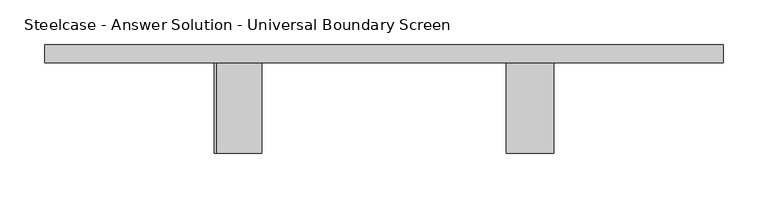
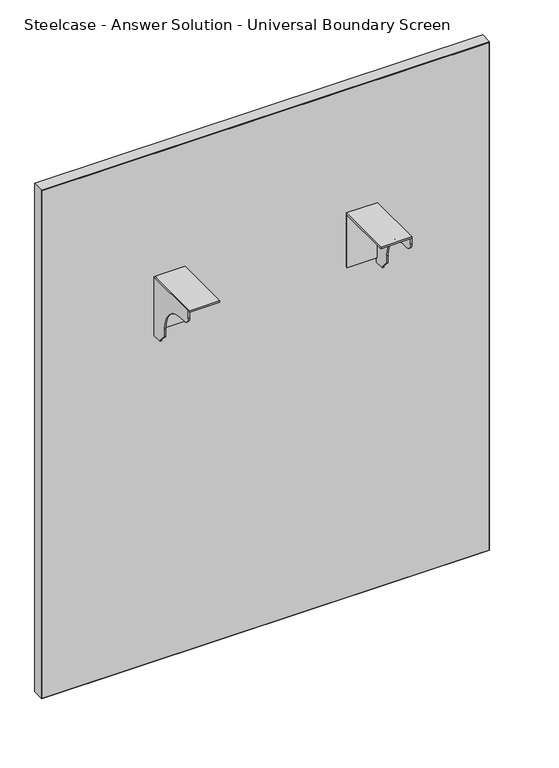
"""IFC4 building model written with IfcOpenShell, lengths in millimetres: furniture geometry, Steelcase - Answer Solution - Universal Boundary Screen : 36H x 30W."""

import ifcopenshell
import ifcopenshell.guid

model = None  # the IFC model being written
_history = None  # IfcOwnerHistory: only IFC2X3 demands one
_inside = {}  # id of a spatial element -> (the spatial element, [elements in it])
_under = {}  # id of a project, library or spatial element -> (it, [spatial elements below it])
_declared = {}  # id of a project -> (the project, [libraries it declares])
_typed = {}  # id of a type object -> (the type object, [elements of that type])
_made_of = {}  # id of a material, layer set ... -> (it, [elements and type objects made of it])


def new_model(schema):
    """Start an empty IFC model of exactly this schema.

    Asked for "IFC4X3", IfcOpenShell would pick the latest addendum, in which some entities
    have other attributes; the version numbers below select the first issue.
    IFC2X3 requires an IfcOwnerHistory on every rooted entity: one is made here for all.
    """
    global model, _history
    if schema == "IFC4X3":
        model = ifcopenshell.file(schema_version=(4, 3, 0, 0))
    else:
        model = ifcopenshell.file(schema=schema)
    _inside.clear()
    _under.clear()
    _declared.clear()
    _typed.clear()
    _made_of.clear()
    _history = None
    if model.schema == "IFC2X3":
        org = make("IfcOrganization", Name="unknown")
        user = make(
            "IfcPersonAndOrganization",
            ThePerson=make("IfcPerson", FamilyName="unknown"),
            TheOrganization=org,
        )
        app = make(
            "IfcApplication",
            ApplicationDeveloper=org,
            Version="unknown",
            ApplicationFullName="unknown",
            ApplicationIdentifier="unknown",
        )
        _history = make(
            "IfcOwnerHistory",
            OwningUser=user,
            OwningApplication=app,
            ChangeAction="ADDED",
            CreationDate=0,
        )
    return model


def make(cls, **values):
    """One entity of the class cls with the attributes given. An attribute that is None is left unset."""
    return model.create_entity(
        cls, **{name: value for name, value in values.items() if value is not None}
    )


def rooted(cls, **values):
    """An entity with a GlobalId (a new one), such as an element, a storey or a relation."""
    return make(cls, GlobalId=ifcopenshell.guid.new(), OwnerHistory=_history, **values)


def si_unit(unit_type, name, prefix=None):
    """IfcSIUnit, for example si_unit("LENGTHUNIT", "METRE", prefix="MILLI")."""
    return make("IfcSIUnit", UnitType=unit_type, Prefix=prefix, Name=name)


def assignment(units):
    """IfcUnitAssignment: the units of a project."""
    return None if units is None else make("IfcUnitAssignment", Units=units)


def point(xyz):
    """IfcCartesianPoint."""
    return None if xyz is None else make("IfcCartesianPoint", Coordinates=xyz)


def direction(xyz):
    """IfcDirection."""
    return None if xyz is None else make("IfcDirection", DirectionRatios=xyz)


def frame(location, z_axis=None, x_axis=None):
    """IfcAxis2Placement3D, a coordinate frame: its origin and axes. An axis left out is left unset."""
    return make(
        "IfcAxis2Placement3D",
        Location=point(location),
        Axis=direction(z_axis),
        RefDirection=direction(x_axis),
    )


def frame_2d(location, x_axis=None):
    """IfcAxis2Placement2D, a coordinate frame in the plane: its origin and x axis."""
    return make(
        "IfcAxis2Placement2D", Location=point(location), RefDirection=direction(x_axis)
    )


def origin():
    """The frame at (0, 0, 0) with its axes left unset."""
    return frame((0.0, 0.0, 0.0))


def place(relative_to, where):
    """IfcLocalPlacement: puts the frame where relative to a parent placement (None: the world)."""
    return make(
        "IfcLocalPlacement", PlacementRelTo=relative_to, RelativePlacement=where
    )


def context(
    kind, dimensions, precision=None, world=None, true_north=None, identifier=None
):
    """IfcGeometricRepresentationContext, for example the 3D "Model" context."""
    return make(
        "IfcGeometricRepresentationContext",
        ContextIdentifier=identifier,
        ContextType=kind,
        CoordinateSpaceDimension=dimensions,
        Precision=precision,
        WorldCoordinateSystem=world,
        TrueNorth=true_north,
    )


def project(units=None, contexts=None):
    """IfcProject with its units and contexts."""
    return rooted(
        "IfcProject",
        Name="project",
        RepresentationContexts=contexts,
        UnitsInContext=assignment(units),
    )


def spatial(cls, under=None, at=None, **own):
    """A site, building, storey or space (cls), placed at a placement, below another one or the project."""
    s = rooted(cls, ObjectPlacement=at, **own)
    if under is not None:
        _under.setdefault(under.id(), (under, []))[1].append(s)
    return s


def polyline(points):
    """IfcPolyline through the points."""
    return make("IfcPolyline", Points=[point(p) for p in points])


def circle_curve(where, radius):
    """IfcCircle in the frame where."""
    return make("IfcCircle", Position=where, Radius=radius)


def trimmed(basis, trim1, trim2, sense, master):
    """IfcTrimmedCurve: the piece of a basis curve between two trims."""
    return make(
        "IfcTrimmedCurve",
        BasisCurve=basis,
        Trim1=trim1,
        Trim2=trim2,
        SenseAgreement=sense,
        MasterRepresentation=master,
    )


def segment(curve, same_sense, transition):
    """IfcCompositeCurveSegment."""
    return make(
        "IfcCompositeCurveSegment",
        Transition=transition,
        SameSense=same_sense,
        ParentCurve=curve,
    )


def composite_curve(segments, self_intersect=None):
    """IfcCompositeCurve: segments joined end to end."""
    return make("IfcCompositeCurve", Segments=segments, SelfIntersect=self_intersect)


def outline(outer, holes=None, kind="AREA"):
    """IfcArbitraryClosedProfileDef: a profile drawn as a closed curve; with holes, ...WithVoids."""
    if holes is None:
        return make("IfcArbitraryClosedProfileDef", ProfileType=kind, OuterCurve=outer)
    return make(
        "IfcArbitraryProfileDefWithVoids",
        ProfileType=kind,
        OuterCurve=outer,
        InnerCurves=holes,
    )


def extrude(swept, where, along, depth):
    """IfcExtrudedAreaSolid: the profile swept, set in the frame where, extruded along a direction by depth."""
    return make(
        "IfcExtrudedAreaSolid",
        SweptArea=swept,
        Position=where,
        ExtrudedDirection=direction(along),
        Depth=depth,
    )


def shape(context_of_items, identifier, shape_type, items):
    """IfcShapeRepresentation: the items that make up one representation, for example the "Body"."""
    return make(
        "IfcShapeRepresentation",
        ContextOfItems=context_of_items,
        RepresentationIdentifier=identifier,
        RepresentationType=shape_type,
        Items=items,
    )


def source(mapping_origin, context_of_items, identifier, shape_type, items):
    """IfcRepresentationMap: a shape defined once, which mapped items show again and again."""
    return make(
        "IfcRepresentationMap",
        MappingOrigin=mapping_origin,
        MappedRepresentation=shape(context_of_items, identifier, shape_type, items),
    )


def transform(
    local_origin,
    x_axis=None,
    y_axis=None,
    z_axis=None,
    scale=None,
    scale2=None,
    scale3=None,
    uniform=True,
):
    """IfcCartesianTransformationOperator3D, or its non-uniform kind. x_axis, y_axis, z_axis: its Axis1, 2, 3."""
    if uniform:
        return make(
            "IfcCartesianTransformationOperator3D",
            Axis1=direction(x_axis),
            Axis2=direction(y_axis),
            LocalOrigin=point(local_origin),
            Scale=scale,
            Axis3=direction(z_axis),
        )
    return make(
        "IfcCartesianTransformationOperator3DnonUniform",
        Axis1=direction(x_axis),
        Axis2=direction(y_axis),
        LocalOrigin=point(local_origin),
        Scale=scale,
        Axis3=direction(z_axis),
        Scale2=scale2,
        Scale3=scale3,
    )


def mapped(mapping_source, mapping_target):
    """IfcMappedItem: shows the shape of a source again, moved by a transform."""
    return make(
        "IfcMappedItem", MappingSource=mapping_source, MappingTarget=mapping_target
    )


def made_of(thing, what):
    """Note that an element or type object is made of a material, layer set ...; save() writes the relation."""
    if what is not None:
        _made_of.setdefault(what.id(), (what, []))[1].append(thing)
    return thing


def element(
    cls,
    number,
    at=None,
    inside=None,
    cuts=None,
    type_object=None,
    material=None,
    context=None,
    identifier="Body",
    shape_type=None,
    held_by="IfcProductDefinitionShape",
    body=None,
    shapes=None,
    **own,
):
    """One element of the class cls, such as IfcWall. Its Tag is "e" and its number.

    at: its placement. inside: the storey or other place that contains it. cuts: it is an
    opening in that element (IfcRelVoidsElement). A single representation is given by context,
    identifier, shape_type and body (its items); several are given by shapes. held_by: the class
    of the entity that holds the representations. save() writes the other relations.
    """
    e = rooted(cls, Tag="e%d" % number, ObjectPlacement=at, **own)
    if body is not None:
        shapes = [shape(context, identifier, shape_type, body)]
    if shapes is not None:
        e.Representation = make(held_by, Representations=shapes)
    if inside is not None:
        _inside.setdefault(inside.id(), (inside, []))[1].append(e)
    if cuts is not None:
        rooted(
            "IfcRelVoidsElement", RelatingBuildingElement=cuts, RelatedOpeningElement=e
        )
    if type_object is not None:
        _typed.setdefault(type_object.id(), (type_object, []))[1].append(e)
    return made_of(e, material)


def aggregate(whole, parts):
    """IfcRelAggregates: a whole, such as a stair, and the parts it consists of."""
    return rooted("IfcRelAggregates", RelatingObject=whole, RelatedObjects=parts)


def save(model, path):
    """Write the relations noted so far, then the file.

    IfcRelAggregates (storeys below a building ...), IfcRelContainedInSpatialStructure (elements
    in a storey), IfcRelDefinesByType, IfcRelAssociatesMaterial and IfcRelDeclares: one each for
    every whole, place, type object, material and project.
    """
    for whole, parts in _under.values():
        aggregate(whole, parts)
    for where, things in _inside.values():
        rooted(
            "IfcRelContainedInSpatialStructure",
            RelatedElements=things,
            RelatingStructure=where,
        )
    for kind, things in _typed.values():
        rooted("IfcRelDefinesByType", RelatedObjects=things, RelatingType=kind)
    for what, things in _made_of.values():
        rooted("IfcRelAssociatesMaterial", RelatedObjects=things, RelatingMaterial=what)
    for by, libraries in _declared.values():
        rooted("IfcRelDeclares", RelatingContext=by, RelatedDefinitions=libraries)
    model.write(path)


def steelcase_answer_solution_universal_boundary_screen_e8acf691(model_context):
    return source(origin(), model_context, "Body", "SweptSolid", [
        extrude(outline(polyline([(-103.1670434, 689.3558876), (-103.1670434, 692.1499758), (-1.5668826, 692.1499758), (-1.5668826, 595.5029317), (-4.1079736, 595.5029317), (-4.1079736, 689.3558876), (-103.1670434, 689.3558876)])), frame((667.2336711, 0.0, 0.0), z_axis=(1.0, 0.0, 0.0), x_axis=(0.0, 1.0, 0.0)), (0.0, 0.0, 1.0), 53.3444116),
        extrude(outline(composite_curve([segment(polyline([(-103.1670434, 679.2814802), (-103.1670434, 692.1499758), (-1.5668826, 692.1499758), (-1.5668826, 586.9634093), (-19.8232934, 586.9634093), (-19.8232934, 589.7574248), (-32.0458032, 601.9799346), (-32.0458032, 615.7814802)]), True, "CONTINUOUS"), segment(trimmed(circle_curve(frame_2d((-82.8458032, 615.7814802)), 50.8), [point((-32.0458032, 615.7814802))], [point((-82.8458032, 666.5814802))], True, "CARTESIAN"), True, "CONTINUOUS"), segment(polyline([(-82.8458032, 666.5814802), (-90.4670434, 666.5814802)]), True, "CONTINUOUS"), segment(trimmed(circle_curve(frame_2d((-90.4670434, 679.2814802)), 12.7), [point((-90.4670434, 666.5814802))], [point((-103.1670434, 679.2814802))], False, "CARTESIAN"), True, "CONTINUOUS")], self_intersect=False)), frame((718.0328959, 0.0, 0.0), z_axis=(1.0, 0.0, 0.0), x_axis=(0.0, 1.0, 0.0)), (0.0, 0.0, 1.0), 2.5451868),
        extrude(outline(polyline([(-103.1670434, 689.3558876), (-103.1670434, 692.1499758), (-1.5668826, 692.1499758), (-1.5668826, 595.5029317), (-4.1079736, 595.5029317), (-4.1079736, 689.3558876), (-103.1670434, 689.3558876)])), frame((342.1232694, 0.0, 0.0), z_axis=(1.0, 0.0, 0.0), x_axis=(0.0, 1.0, 0.0)), (0.0, 0.0, 1.0), 50.7992249),
        extrude(outline(composite_curve([segment(polyline([(-103.1670434, 679.2814802), (-103.1670434, 692.1499758), (-1.5668826, 692.1499758), (-1.5668826, 586.9634093), (-19.8232934, 586.9634093), (-19.8232934, 589.7574248), (-32.0458032, 601.9799346), (-32.0458032, 615.7814802)]), True, "CONTINUOUS"), segment(trimmed(circle_curve(frame_2d((-82.8458032, 615.7814802)), 50.8), [point((-32.0458032, 615.7814802))], [point((-82.8458032, 666.5814802))], True, "CARTESIAN"), True, "CONTINUOUS"), segment(polyline([(-82.8458032, 666.5814802), (-90.4670434, 666.5814802)]), True, "CONTINUOUS"), segment(trimmed(circle_curve(frame_2d((-90.4670434, 679.2814802)), 12.7), [point((-90.4670434, 666.5814802))], [point((-103.1670434, 679.2814802))], False, "CARTESIAN"), True, "CONTINUOUS")], self_intersect=False)), frame((339.5780827, 0.0, 0.0), z_axis=(1.0, 0.0, 0.0), x_axis=(0.0, 1.0, 0.0)), (0.0, 0.0, 1.0), 2.5451868),
        extrude(outline(polyline([(150.0706578, 18.9055112), (910.0855076, 18.9055112), (910.0855076, -1.5668826), (150.0706578, -1.5668826), (150.0706578, 18.9055112)])), frame((0.0, 0.0, 1.016), z_axis=(0.0, 0.0, 1.0), x_axis=(1.0, 0.0, 0.0)), (0.0, 0.0, 1.0), 912.3914249),
        extrude(outline(polyline([(914.4, 911.0780827), (914.4, 149.0780827), (0.0, 149.0780827), (0.0, 911.0780827), (914.4, 911.0780827)]), holes=[polyline([(913.4074249, 910.0855076), (1.016, 910.0855076), (1.016, 150.0706578), (913.4074249, 150.0706578), (913.4074249, 910.0855076)])]), frame((0.0, -1.5668826, 0.0), z_axis=(0.0, 1.0, 0.0), x_axis=(0.0, 0.0, 1.0)), (0.0, 0.0, 1.0), 20.4723938),
    ])


if __name__ == "__main__":
    model = new_model("IFC4")
    model_context = context("Model", 3, world=origin())
    ifc_project = project(units=[si_unit("LENGTHUNIT", "METRE", prefix="MILLI")], contexts=[model_context])
    site = spatial("IfcSite", under=ifc_project)
    building = spatial("IfcBuilding", under=site)
    placement = place(None, origin())
    steelcase_answer_solution_universal_boundary_screen_shape = steelcase_answer_solution_universal_boundary_screen_e8acf691(model_context)
    element("IfcFurniture", 1, ObjectType="Steelcase - Answer Solution - Universal Boundary Screen : 36H x 30W", at=placement, inside=building, context=model_context, shape_type="MappedRepresentation", body=[
        mapped(steelcase_answer_solution_universal_boundary_screen_shape, transform((0.0, 0.0, 0.0), x_axis=(1.0, 0.0, 0.0), y_axis=(0.0, 1.0, 0.0), z_axis=(0.0, 0.0, 1.0))),
    ])
    save(model, "model.ifc")
